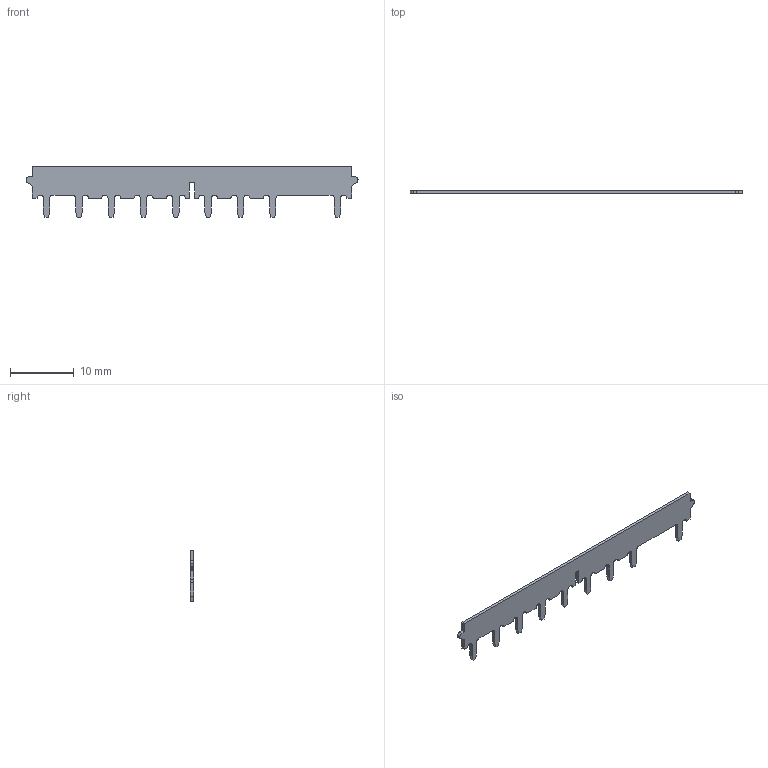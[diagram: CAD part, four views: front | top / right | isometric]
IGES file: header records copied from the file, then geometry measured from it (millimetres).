
Start section:  PTC IGES file: 0394124_trennwand.igs
Global section: file name: 0394124_trennwand.igs; native system: Pro/ENGINEER by Parametric Technology Corporation; preprocessor: 2005170; author: nagl; organization: Unknown; date: 050809.181942; units: millimetre
Bounding box: 52.2 x 0.5 x 8 mm (x, y, z)
Volume: 132.3 mm3; surface area: 618.2 mm2
Topology: 1 solids, 1 shells, 108 faces, 318 edges, 212 vertices
Faces by surface type: bspline 108
